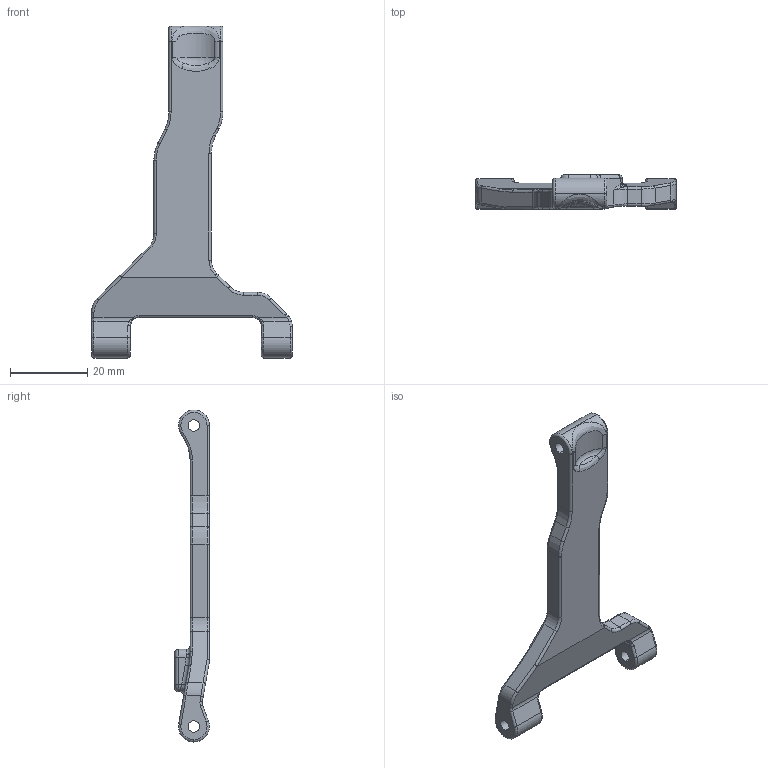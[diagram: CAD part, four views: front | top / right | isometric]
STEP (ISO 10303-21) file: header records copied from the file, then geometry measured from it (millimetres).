
FILE_DESCRIPTION (( 'STEP AP214' ), '1' );
FILE_NAME ('ﾌ44_ﾐ飼璢_ﾇ_ﾂ_ﾋ.STEP', '2019-03-21T13:58:13', ( '' ), ( '' ), 'SwSTEP 2.0', 'SolidWorks 2018', '' );
FILE_SCHEMA (( 'AUTOMOTIVE_DESIGN' ));
Length unit declared in the file: millimetre
Products named in the file (1): ﾌ44_ﾐ飼璢_ﾇ_ﾂ_ﾋ
Bounding box: 52 x 9 x 86 mm (x, y, z)
Volume: 8104.7 mm3; surface area: 5080.7 mm2
Topology: 1 solids, 1 shells, 235 faces, 551 edges, 316 vertices
Faces by surface type: cylinder 106, torus 49, bspline 40, plane 38, sphere 1, cone 1
Entity records: 7447 total; most frequent: CARTESIAN_POINT 2256, DIRECTION 1119, ORIENTED_EDGE 1096, EDGE_CURVE 548, AXIS2_PLACEMENT_3D 457, VERTEX_POINT 316, CIRCLE 261, EDGE_LOOP 242
